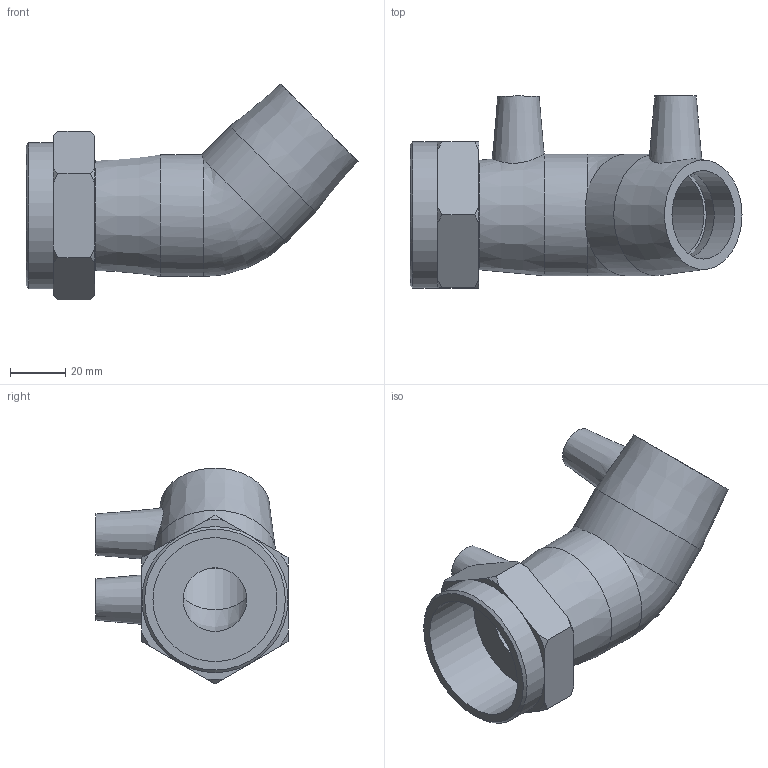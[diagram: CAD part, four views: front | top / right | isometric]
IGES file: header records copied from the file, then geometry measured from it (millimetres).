
Global section: file name: 493604032015.ipt; native system: Autodesk Inventor 2015; preprocessor: unknown; author: KIM; date: 20200202.122455; units: millimetre
Bounding box: 120 x 69.4 x 78.04 mm (x, y, z)
Volume: 108376.3 mm3; surface area: 37997.3 mm2
Topology: 1 solids, 2 shells, 61 faces, 150 edges, 100 vertices
Faces by surface type: plane 27, cone 17, revolution 9, cylinder 7, bspline 1
Full cylindrical faces by diameter (mm): 4 x2, 32 x2, 44 x2, 52.8 x1
